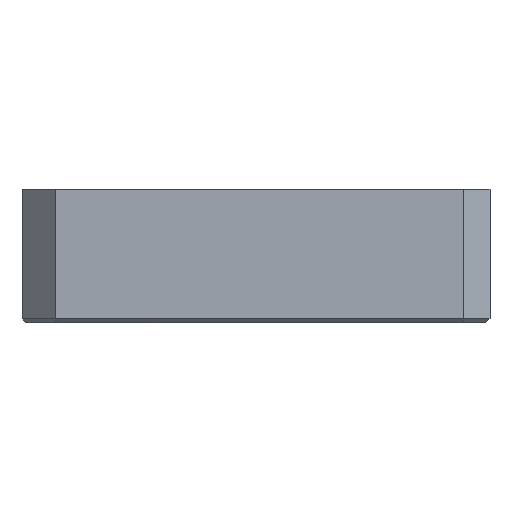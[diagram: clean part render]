
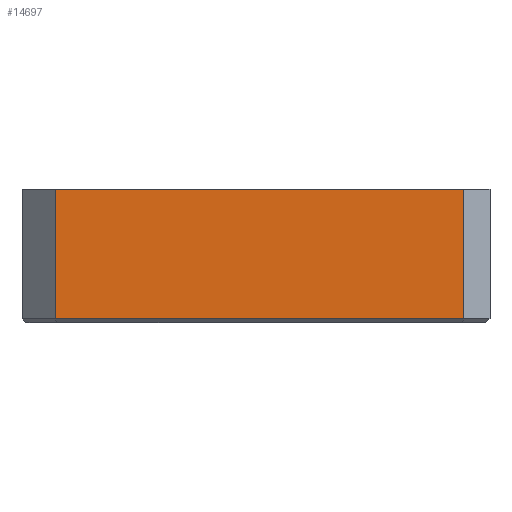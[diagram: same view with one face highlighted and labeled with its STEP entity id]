
A CAD part, front view. The second image highlights one B-rep face of the part: STEP entity #14697.
In plain terms, the highlighted planar face has unit normal (0, -1, 0).
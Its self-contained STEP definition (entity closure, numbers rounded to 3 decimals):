
#32 = B_SPLINE_SURFACE_WITH_KNOTS('',1,1,(
    (#33,#34)
    ,(#35,#36
    )),.UNSPECIFIED.,.F.,.F.,.F.,(2,2),(2,2),(0.,110.631),(0.,1.
    ),.PIECEWISE_BEZIER_KNOTS.);
#33 = CARTESIAN_POINT('',(-53.94,-76.5,0.));
#34 = CARTESIAN_POINT('',(-54.375,-77.55,1.05));
#35 = CARTESIAN_POINT('',(55.924,-76.5,0.));
#36 = CARTESIAN_POINT('',(56.256,-77.55,1.05));
#56 = VERTEX_POINT('',#57);
#57 = CARTESIAN_POINT('',(56.256,-77.55,1.05));
#82 = EDGE_CURVE('',#83,#56,#85,.T.);
#83 = VERTEX_POINT('',#84);
#84 = CARTESIAN_POINT('',(-54.375,-77.55,1.05));
#85 = SURFACE_CURVE('',#86,(#90,#97),.PCURVE_S1.);
#86 = LINE('',#87,#88);
#87 = CARTESIAN_POINT('',(-54.375,-77.55,1.05));
#88 = VECTOR('',#89,1.);
#89 = DIRECTION('',(1.,0.,0.));
#90 = PCURVE('',#32,#91);
#91 = DEFINITIONAL_REPRESENTATION('',(#92),#96);
#92 = LINE('',#93,#94);
#93 = CARTESIAN_POINT('',(0.,1.));
#94 = VECTOR('',#95,1.);
#95 = DIRECTION('',(1.,0.));
#96 = ( GEOMETRIC_REPRESENTATION_CONTEXT(2) 
PARAMETRIC_REPRESENTATION_CONTEXT() REPRESENTATION_CONTEXT('2D SPACE',''
  ) );
#97 = PCURVE('',#98,#103);
#98 = PLANE('',#99);
#99 = AXIS2_PLACEMENT_3D('',#100,#101,#102);
#100 = CARTESIAN_POINT('',(-54.375,-77.55,36.1));
#101 = DIRECTION('',(0.,-1.,0.));
#102 = DIRECTION('',(1.,0.,0.));
#103 = DEFINITIONAL_REPRESENTATION('',(#104),#108);
#104 = LINE('',#105,#106);
#105 = CARTESIAN_POINT('',(0.,-35.05));
#106 = VECTOR('',#107,1.);
#107 = DIRECTION('',(1.,0.));
#108 = ( GEOMETRIC_REPRESENTATION_CONTEXT(2) 
PARAMETRIC_REPRESENTATION_CONTEXT() REPRESENTATION_CONTEXT('2D SPACE',''
  ) );
#177 = PLANE('',#178);
#178 = AXIS2_PLACEMENT_3D('',#179,#180,#181);
#179 = CARTESIAN_POINT('',(-63.375,-68.55,36.1));
#180 = DIRECTION('',(-0.707,-0.707,0.));
#181 = DIRECTION('',(0.707,-0.707,0.));
#644 = PLANE('',#645);
#645 = AXIS2_PLACEMENT_3D('',#646,#647,#648);
#646 = CARTESIAN_POINT('',(-54.375,-77.55,36.1));
#647 = DIRECTION('',(0.,0.,-1.));
#648 = DIRECTION('',(0.499,0.867,0.));
#668 = PLANE('',#669);
#669 = AXIS2_PLACEMENT_3D('',#670,#671,#672);
#670 = CARTESIAN_POINT('',(56.256,-77.55,36.1));
#671 = DIRECTION('',(0.575,-0.818,0.));
#672 = DIRECTION('',(0.818,0.575,0.));
#14320 = EDGE_CURVE('',#14321,#14323,#14325,.T.);
#14321 = VERTEX_POINT('',#14322);
#14322 = CARTESIAN_POINT('',(-54.375,-77.55,36.1));
#14323 = VERTEX_POINT('',#14324);
#14324 = CARTESIAN_POINT('',(56.256,-77.55,36.1));
#14325 = SURFACE_CURVE('',#14326,(#14330,#14337),.PCURVE_S1.);
#14326 = LINE('',#14327,#14328);
#14327 = CARTESIAN_POINT('',(-54.375,-77.55,36.1));
#14328 = VECTOR('',#14329,1.);
#14329 = DIRECTION('',(1.,0.,0.));
#14330 = PCURVE('',#644,#14331);
#14331 = DEFINITIONAL_REPRESENTATION('',(#14332),#14336);
#14332 = LINE('',#14333,#14334);
#14333 = CARTESIAN_POINT('',(0.,0.));
#14334 = VECTOR('',#14335,1.);
#14335 = DIRECTION('',(0.499,0.867));
#14336 = ( GEOMETRIC_REPRESENTATION_CONTEXT(2) 
PARAMETRIC_REPRESENTATION_CONTEXT() REPRESENTATION_CONTEXT('2D SPACE',''
  ) );
#14337 = PCURVE('',#98,#14338);
#14338 = DEFINITIONAL_REPRESENTATION('',(#14339),#14343);
#14339 = LINE('',#14340,#14341);
#14340 = CARTESIAN_POINT('',(0.,0.));
#14341 = VECTOR('',#14342,1.);
#14342 = DIRECTION('',(1.,0.));
#14343 = ( GEOMETRIC_REPRESENTATION_CONTEXT(2) 
PARAMETRIC_REPRESENTATION_CONTEXT() REPRESENTATION_CONTEXT('2D SPACE',''
  ) );
#14540 = EDGE_CURVE('',#56,#14323,#14541,.T.);
#14541 = SURFACE_CURVE('',#14542,(#14545,#14551),.PCURVE_S1.);
#14542 = B_SPLINE_CURVE_WITH_KNOTS('',1,(#14543,#14544),.UNSPECIFIED.,
  .F.,.F.,(2,2),(0.,1.),.PIECEWISE_BEZIER_KNOTS.);
#14543 = CARTESIAN_POINT('',(56.256,-77.55,1.05));
#14544 = CARTESIAN_POINT('',(56.256,-77.55,36.1));
#14545 = PCURVE('',#668,#14546);
#14546 = DEFINITIONAL_REPRESENTATION('',(#14547),#14550);
#14547 = B_SPLINE_CURVE_WITH_KNOTS('',1,(#14548,#14549),.UNSPECIFIED.,
  .F.,.F.,(2,2),(0.,1.),.PIECEWISE_BEZIER_KNOTS.);
#14548 = CARTESIAN_POINT('',(0.,-35.05));
#14549 = CARTESIAN_POINT('',(0.,0.));
#14550 = ( GEOMETRIC_REPRESENTATION_CONTEXT(2) 
PARAMETRIC_REPRESENTATION_CONTEXT() REPRESENTATION_CONTEXT('2D SPACE',''
  ) );
#14551 = PCURVE('',#98,#14552);
#14552 = DEFINITIONAL_REPRESENTATION('',(#14553),#14556);
#14553 = B_SPLINE_CURVE_WITH_KNOTS('',1,(#14554,#14555),.UNSPECIFIED.,
  .F.,.F.,(2,2),(0.,1.),.PIECEWISE_BEZIER_KNOTS.);
#14554 = CARTESIAN_POINT('',(110.631,-35.05));
#14555 = CARTESIAN_POINT('',(110.631,0.));
#14556 = ( GEOMETRIC_REPRESENTATION_CONTEXT(2) 
PARAMETRIC_REPRESENTATION_CONTEXT() REPRESENTATION_CONTEXT('2D SPACE',''
  ) );
#14678 = EDGE_CURVE('',#83,#14321,#14679,.T.);
#14679 = SURFACE_CURVE('',#14680,(#14683,#14689),.PCURVE_S1.);
#14680 = B_SPLINE_CURVE_WITH_KNOTS('',1,(#14681,#14682),.UNSPECIFIED.,
  .F.,.F.,(2,2),(0.,1.),.PIECEWISE_BEZIER_KNOTS.);
#14681 = CARTESIAN_POINT('',(-54.375,-77.55,1.05));
#14682 = CARTESIAN_POINT('',(-54.375,-77.55,36.1));
#14683 = PCURVE('',#177,#14684);
#14684 = DEFINITIONAL_REPRESENTATION('',(#14685),#14688);
#14685 = B_SPLINE_CURVE_WITH_KNOTS('',1,(#14686,#14687),.UNSPECIFIED.,
  .F.,.F.,(2,2),(0.,1.),.PIECEWISE_BEZIER_KNOTS.);
#14686 = CARTESIAN_POINT('',(12.728,-35.05));
#14687 = CARTESIAN_POINT('',(12.728,0.));
#14688 = ( GEOMETRIC_REPRESENTATION_CONTEXT(2) 
PARAMETRIC_REPRESENTATION_CONTEXT() REPRESENTATION_CONTEXT('2D SPACE',''
  ) );
#14689 = PCURVE('',#98,#14690);
#14690 = DEFINITIONAL_REPRESENTATION('',(#14691),#14694);
#14691 = B_SPLINE_CURVE_WITH_KNOTS('',1,(#14692,#14693),.UNSPECIFIED.,
  .F.,.F.,(2,2),(0.,1.),.PIECEWISE_BEZIER_KNOTS.);
#14692 = CARTESIAN_POINT('',(0.,-35.05));
#14693 = CARTESIAN_POINT('',(0.,0.));
#14694 = ( GEOMETRIC_REPRESENTATION_CONTEXT(2) 
PARAMETRIC_REPRESENTATION_CONTEXT() REPRESENTATION_CONTEXT('2D SPACE',''
  ) );
#14697 = ADVANCED_FACE('',(#14698),#98,.T.);
#14698 = FACE_BOUND('',#14699,.T.);
#14699 = EDGE_LOOP('',(#14700,#14701,#14702,#14703));
#14700 = ORIENTED_EDGE('',*,*,#82,.T.);
#14701 = ORIENTED_EDGE('',*,*,#14540,.T.);
#14702 = ORIENTED_EDGE('',*,*,#14320,.F.);
#14703 = ORIENTED_EDGE('',*,*,#14678,.F.);
